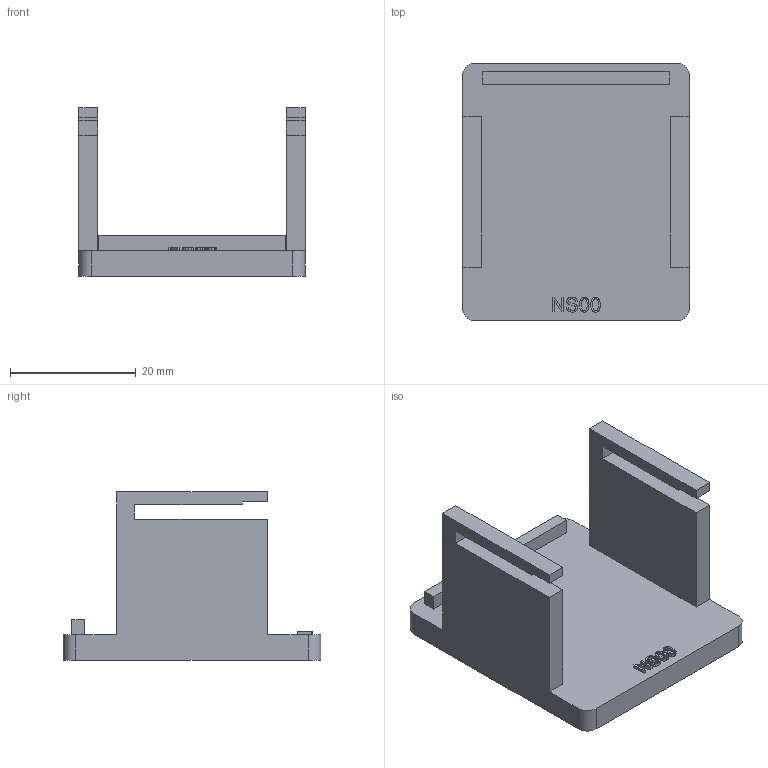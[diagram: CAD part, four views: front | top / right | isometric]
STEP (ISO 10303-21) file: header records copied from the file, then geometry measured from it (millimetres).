
FILE_DESCRIPTION(('Open CASCADE Model'),'2;1');
FILE_NAME('Open CASCADE Shape Model','1970-01-01T00:00:00',('Author'),( 'Open CASCADE'),'Open CASCADE STEP processor 7.8','Open CASCADE 7.8' ,'Unknown');
FILE_SCHEMA(('AUTOMOTIVE_DESIGN { 1 0 10303 214 1 1 1 1 }'));
Length unit declared in the file: millimetre
Products named in the file (2): Open CASCADE STEP translator 7.8 31; NS00D neck storage shoe
Assembly tree (1 placements, depth 2):
  Open CASCADE STEP translator 7.8 31
    NS00D neck storage shoe
Bounding box: 36 x 41 x 26.73 mm (x, y, z)
Volume: 8998.7 mm3; surface area: 6224 mm2
Topology: 1 solids, 1 shells, 126 faces, 351 edges, 234 vertices
Faces by surface type: extrusion 73, plane 49, cylinder 4
Entity records: 9805 total; most frequent: CARTESIAN_POINT 3565, DIRECTION 791, ORIENTED_EDGE 702, PCURVE 702, DEFINITIONAL_REPRESENTATION 702, VECTOR 659, LINE 586, B_SPLINE_CURVE_WITH_KNOTS 524
